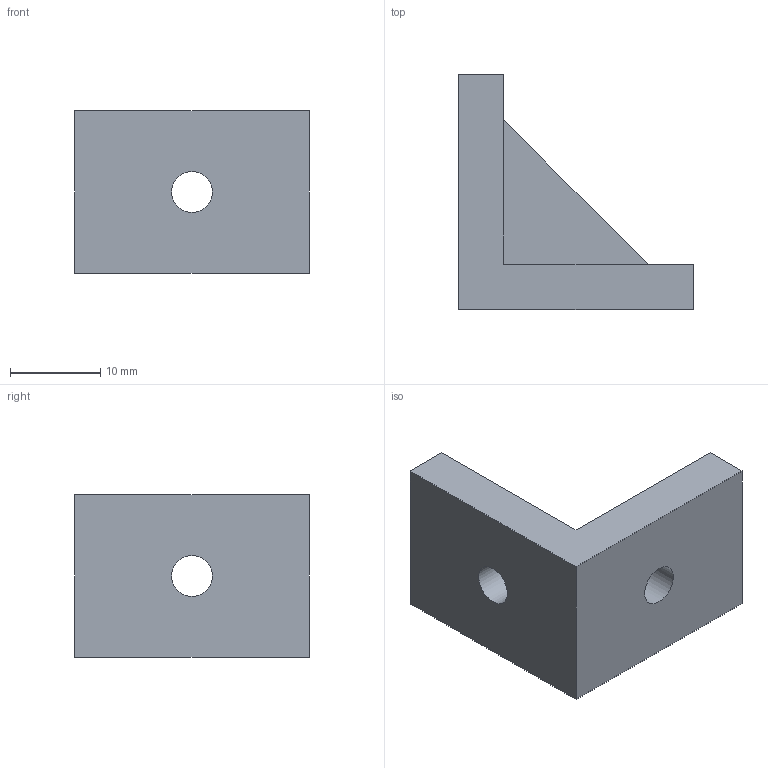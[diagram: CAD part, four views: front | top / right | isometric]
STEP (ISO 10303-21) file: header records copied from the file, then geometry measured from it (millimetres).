
FILE_DESCRIPTION(('Open CASCADE Model'),'2;1');
FILE_NAME('Open CASCADE Shape Model','2026-10-06T09:41:54',('Author'),( 'Open CASCADE'),'Open CASCADE STEP processor 7.8','Open CASCADE 7.8' ,'Unknown');
FILE_SCHEMA(('AUTOMOTIVE_DESIGN { 1 0 10303 214 1 1 1 1 }'));
Length unit declared in the file: millimetre
Products named in the file (1): Open CASCADE STEP translator 7.8 3
Bounding box: 26 x 26 x 18 mm (x, y, z)
Volume: 4455 mm3; surface area: 2647.6 mm2
Topology: 1 solids, 1 shells, 12 faces, 30 edges, 20 vertices
Faces by surface type: plane 10, cylinder 2
Full cylindrical faces by diameter (mm): 4.5 x2
Entity records: 762 total; most frequent: CARTESIAN_POINT 145, DIRECTION 108, LINE 72, VECTOR 72, ORIENTED_EDGE 60, PCURVE 60, DEFINITIONAL_REPRESENTATION 60, EDGE_CURVE 30
